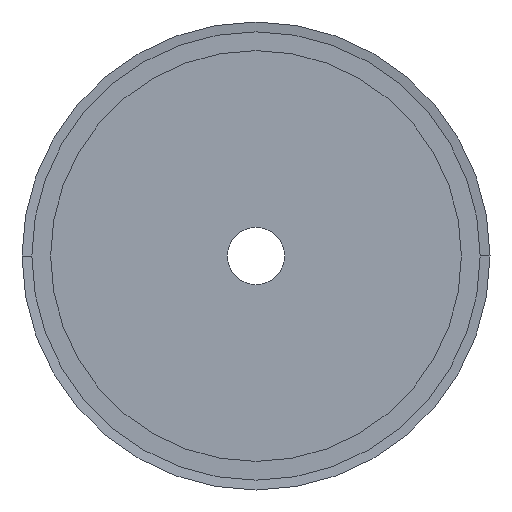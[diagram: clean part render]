
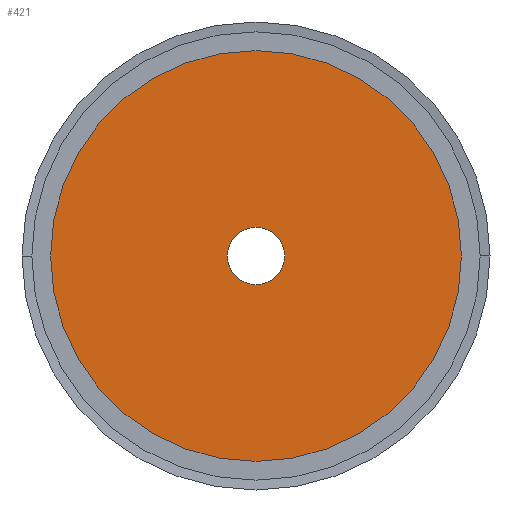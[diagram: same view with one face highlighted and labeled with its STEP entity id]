
A CAD part, left-side view. The second image highlights one B-rep face of the part: STEP entity #421.
In plain terms, the highlighted planar face has unit normal (-1, 0, 0).
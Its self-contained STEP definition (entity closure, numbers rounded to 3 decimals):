
#421 = ADVANCED_FACE( '', ( #1121, #1122 ), #1123, .T. );
#1121 = FACE_BOUND( '', #1822, .T. );
#1122 = FACE_OUTER_BOUND( '', #1823, .T. );
#1123 = PLANE( '', #1824 );
#1822 = EDGE_LOOP( '', ( #4883, #4884 ) );
#1823 = EDGE_LOOP( '', ( #4885, #4886 ) );
#1824 = AXIS2_PLACEMENT_3D( '', #4887, #4888, #4889 );
#4883 = ORIENTED_EDGE( '', *, *, #5896, .F. );
#4884 = ORIENTED_EDGE( '', *, *, #4905, .F. );
#4885 = ORIENTED_EDGE( '', *, *, #4893, .T. );
#4886 = ORIENTED_EDGE( '', *, *, #5901, .T. );
#4887 = CARTESIAN_POINT( '', ( 0., 32.75, 0. ) );
#4888 = DIRECTION( '', ( -1., 0., 0. ) );
#4889 = DIRECTION( '', ( 0., 1., 0. ) );
#4893 = EDGE_CURVE( '', #5903, #5907, #5909, .T. );
#4905 = EDGE_CURVE( '', #5931, #5927, #5933, .T. );
#5896 = EDGE_CURVE( '', #5927, #5931, #7580, .T. );
#5901 = EDGE_CURVE( '', #5907, #5903, #7585, .T. );
#5903 = VERTEX_POINT( '', #7587 );
#5907 = VERTEX_POINT( '', #7592 );
#5909 = CIRCLE( '', #7595, 57.5 );
#5927 = VERTEX_POINT( '', #7617 );
#5931 = VERTEX_POINT( '', #7622 );
#5933 = CIRCLE( '', #7625, 8. );
#7580 = CIRCLE( '', #9844, 8. );
#7585 = CIRCLE( '', #9849, 57.5 );
#7587 = CARTESIAN_POINT( '', ( 0., 57.5, 0. ) );
#7592 = CARTESIAN_POINT( '', ( 0., -57.5, 0. ) );
#7595 = AXIS2_PLACEMENT_3D( '', #9855, #9856, #9857 );
#7617 = CARTESIAN_POINT( '', ( 0., 8., 0. ) );
#7622 = CARTESIAN_POINT( '', ( 0., -8., 0. ) );
#7625 = AXIS2_PLACEMENT_3D( '', #9879, #9880, #9881 );
#9844 = AXIS2_PLACEMENT_3D( '', #11708, #11709, #11710 );
#9849 = AXIS2_PLACEMENT_3D( '', #11723, #11724, #11725 );
#9855 = CARTESIAN_POINT( '', ( 0., 0., 0. ) );
#9856 = DIRECTION( '', ( -1., 0., 0. ) );
#9857 = DIRECTION( '', ( 0., 1., 0. ) );
#9879 = CARTESIAN_POINT( '', ( 0., 0., 0. ) );
#9880 = DIRECTION( '', ( -1., 0., 0. ) );
#9881 = DIRECTION( '', ( 0., 1., 0. ) );
#11708 = CARTESIAN_POINT( '', ( 0., 0., 0. ) );
#11709 = DIRECTION( '', ( -1., 0., 0. ) );
#11710 = DIRECTION( '', ( 0., 1., 0. ) );
#11723 = CARTESIAN_POINT( '', ( 0., 0., 0. ) );
#11724 = DIRECTION( '', ( -1., 0., 0. ) );
#11725 = DIRECTION( '', ( 0., 1., 0. ) );
